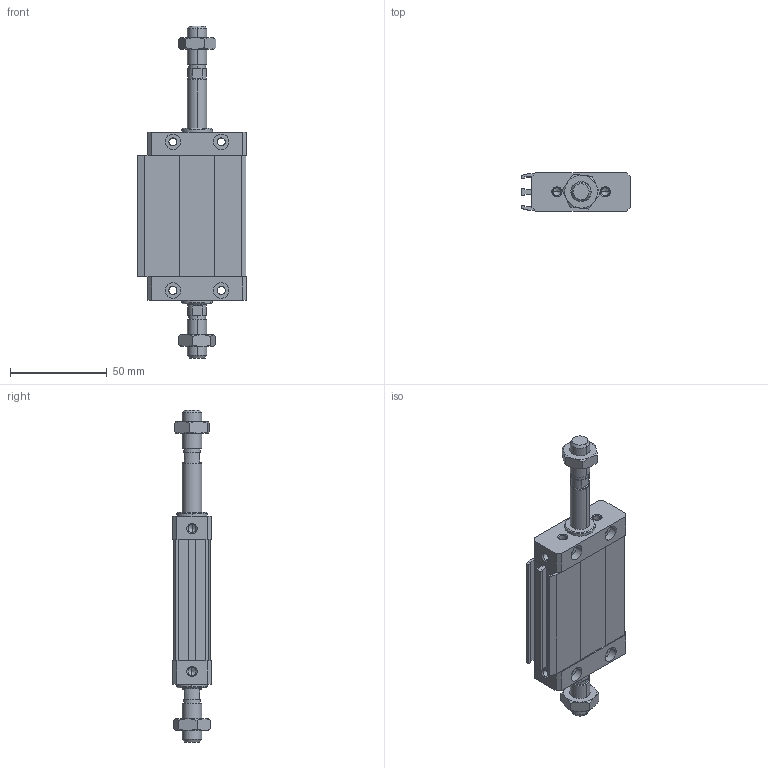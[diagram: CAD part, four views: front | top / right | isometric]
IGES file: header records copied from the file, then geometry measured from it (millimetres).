
Global section: file name: No Iges File Name specified; native system: Autodesk Inventor 2011; preprocessor: AutoDesk Inventor Iges Exporter R2011; author: airolcr1; date: 20101213.152754; units: millimetre
Bounding box: 56.25 x 20 x 172 mm (x, y, z)
Volume: 78818.3 mm3; surface area: 39557.1 mm2
Topology: 6 solids, 6 shells, 282 faces, 664 edges, 392 vertices
Faces by surface type: bspline 117, plane 97, cone 36, cylinder 18, revolution 14
